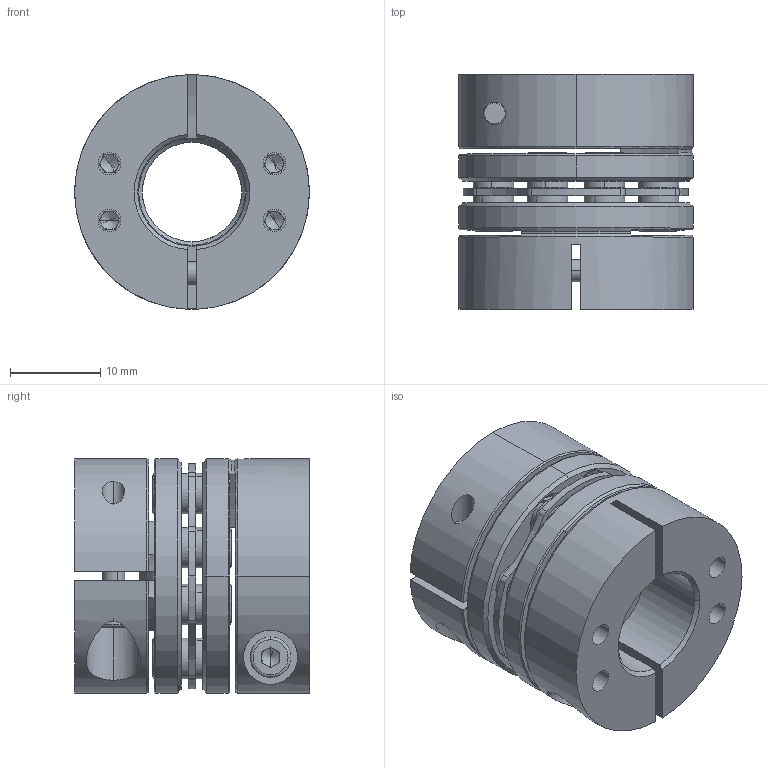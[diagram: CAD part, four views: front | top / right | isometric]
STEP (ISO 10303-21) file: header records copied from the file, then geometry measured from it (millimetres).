
FILE_DESCRIPTION (( 'STEP AP203' ), '1' );
FILE_NAME ('LDG-D26-11-12.STEP', '2021-10-28T04:31:16', ( '' ), ( '' ), 'SwSTEP 2.0', 'SolidWorks 2018', '' );
FILE_SCHEMA (( 'CONFIG_CONTROL_DESIGN' ));
Length unit declared in the file: millimetre
Products named in the file (2): LDG-D26-11-12; 錨璃2^LDG-D26蚾饜芞1
Assembly tree (1 placements, depth 2):
  LDG-D26-11-12
    錨璃2^LDG-D26蚾饜芞1
Bounding box: 26 x 26 x 26 mm (x, y, z)
Volume: 8973.2 mm3; surface area: 8769.1 mm2
Topology: 1 solids, 21 shells, 765 faces, 1872 edges, 1159 vertices
Faces by surface type: cylinder 301, plane 244, cone 200, torus 20
Entity records: 23057 total; most frequent: DIRECTION 4281, CARTESIAN_POINT 4164, ORIENTED_EDGE 3688, EDGE_CURVE 1844, AXIS2_PLACEMENT_3D 1740, VERTEX_POINT 1159, CIRCLE 971, EDGE_LOOP 909
